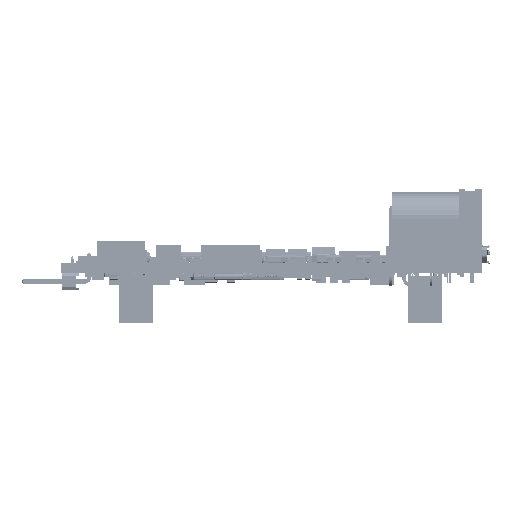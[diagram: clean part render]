
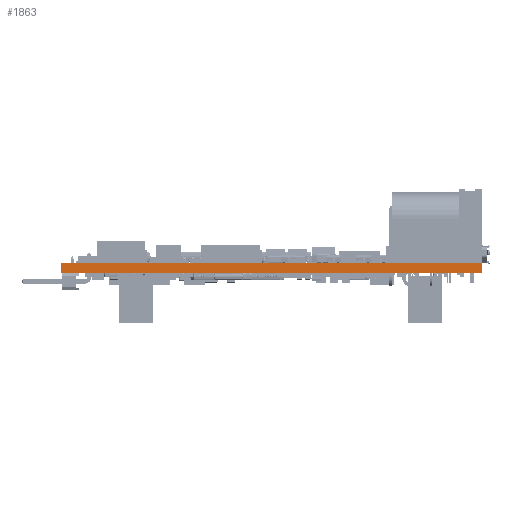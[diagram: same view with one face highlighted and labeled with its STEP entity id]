
A CAD part, front view. The second image highlights one B-rep face of the part: STEP entity #1863.
In plain terms, the highlighted planar face has unit normal (0, -1, 0).
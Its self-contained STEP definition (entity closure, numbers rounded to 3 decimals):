
#1765 = EDGE_CURVE('',#1766,#1768,#1770,.T.);
#1766 = VERTEX_POINT('',#1767);
#1767 = CARTESIAN_POINT('',(0.,0.,0.));
#1768 = VERTEX_POINT('',#1769);
#1769 = CARTESIAN_POINT('',(0.,0.,1.499));
#1770 = LINE('',#1771,#1772);
#1771 = CARTESIAN_POINT('',(0.,0.,0.));
#1772 = VECTOR('',#1773,1.);
#1773 = DIRECTION('',(0.,0.,1.));
#1838 = VERTEX_POINT('',#1839);
#1839 = CARTESIAN_POINT('',(63.,0.,1.499));
#1845 = EDGE_CURVE('',#1846,#1838,#1848,.T.);
#1846 = VERTEX_POINT('',#1847);
#1847 = CARTESIAN_POINT('',(63.,0.,0.));
#1848 = LINE('',#1849,#1850);
#1849 = CARTESIAN_POINT('',(63.,0.,0.));
#1850 = VECTOR('',#1851,1.);
#1851 = DIRECTION('',(0.,0.,1.));
#1863 = ADVANCED_FACE('',(#1864),#1880,.T.);
#1864 = FACE_BOUND('',#1865,.T.);
#1865 = EDGE_LOOP('',(#1866,#1867,#1873,#1874));
#1866 = ORIENTED_EDGE('',*,*,#1845,.T.);
#1867 = ORIENTED_EDGE('',*,*,#1868,.T.);
#1868 = EDGE_CURVE('',#1838,#1768,#1869,.T.);
#1869 = LINE('',#1870,#1871);
#1870 = CARTESIAN_POINT('',(63.,0.,1.499));
#1871 = VECTOR('',#1872,1.);
#1872 = DIRECTION('',(-1.,0.,0.));
#1873 = ORIENTED_EDGE('',*,*,#1765,.F.);
#1874 = ORIENTED_EDGE('',*,*,#1875,.F.);
#1875 = EDGE_CURVE('',#1846,#1766,#1876,.T.);
#1876 = LINE('',#1877,#1878);
#1877 = CARTESIAN_POINT('',(63.,0.,0.));
#1878 = VECTOR('',#1879,1.);
#1879 = DIRECTION('',(-1.,0.,0.));
#1880 = PLANE('',#1881);
#1881 = AXIS2_PLACEMENT_3D('',#1882,#1883,#1884);
#1882 = CARTESIAN_POINT('',(63.,0.,0.));
#1883 = DIRECTION('',(0.,-1.,0.));
#1884 = DIRECTION('',(-1.,0.,0.));
